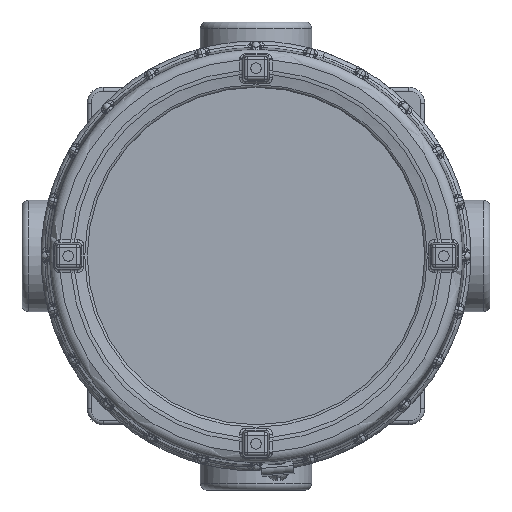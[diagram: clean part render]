
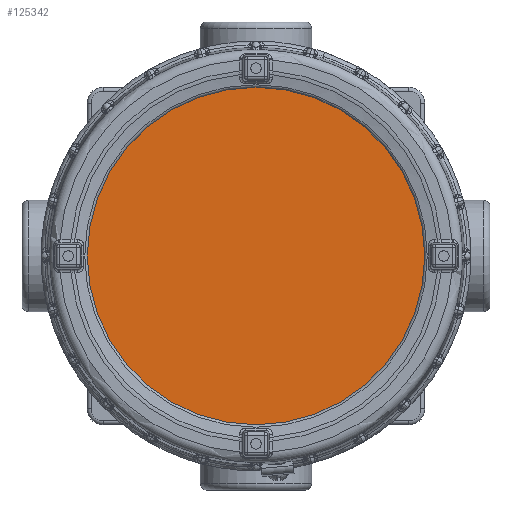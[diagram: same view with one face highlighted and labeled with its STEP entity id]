
A CAD part, front view. The second image highlights one B-rep face of the part: STEP entity #125342.
In plain terms, the highlighted planar face has unit normal (0, -1, 0).
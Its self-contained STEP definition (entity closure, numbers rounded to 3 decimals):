
#6144 = ORIENTED_EDGE ( 'NONE', *, *, #96345, .T. ) ;
#18474 = AXIS2_PLACEMENT_3D ( 'NONE', #98278, #52889, #132715 ) ;
#39373 = DIRECTION ( 'NONE',  ( 0., -1., 0. ) ) ;
#52889 = DIRECTION ( 'NONE',  ( 0., 1., 0. ) ) ;
#60791 = VERTEX_POINT ( 'NONE', #144291 ) ;
#67250 = AXIS2_PLACEMENT_3D ( 'NONE', #107685, #39373, #119168 ) ;
#96345 = EDGE_CURVE ( 'NONE', #60791, #60791, #136402, .T. ) ;
#98278 = CARTESIAN_POINT ( 'NONE',  ( 0., -38., 0. ) ) ;
#107685 = CARTESIAN_POINT ( 'NONE',  ( 0., -38., 0. ) ) ;
#109735 = PLANE ( 'NONE',  #18474 ) ;
#114265 = FACE_OUTER_BOUND ( 'NONE', #133052, .T. ) ;
#119168 = DIRECTION ( 'NONE',  ( 0., 0., 1. ) ) ;
#125342 = ADVANCED_FACE ( 'NONE', ( #114265 ), #109735, .F. ) ;
#132715 = DIRECTION ( 'NONE',  ( 0., 0., -1. ) ) ;
#133052 = EDGE_LOOP ( 'NONE', ( #6144 ) ) ;
#136402 = CIRCLE ( 'NONE', #67250, 54. ) ;
#144291 = CARTESIAN_POINT ( 'NONE',  ( 0., -38., 54. ) ) ;
